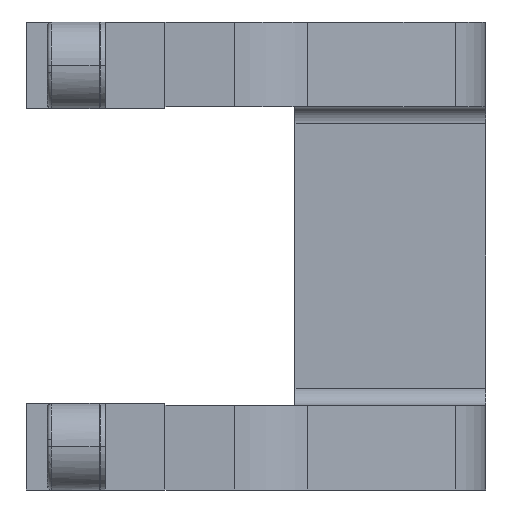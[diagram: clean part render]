
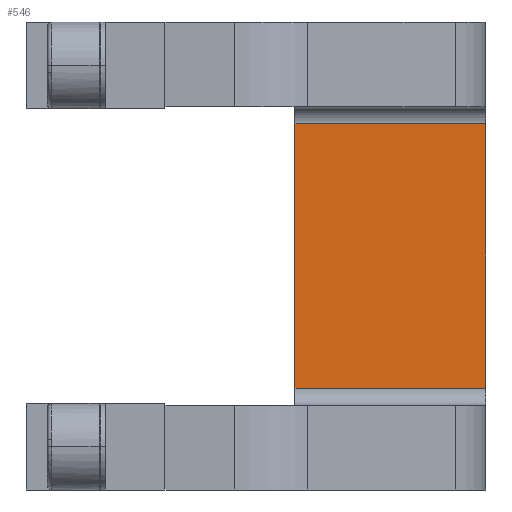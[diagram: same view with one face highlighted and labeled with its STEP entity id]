
A CAD part, front view. The second image highlights one B-rep face of the part: STEP entity #546.
In plain terms, the highlighted planar face has unit normal (0, -1, 0).
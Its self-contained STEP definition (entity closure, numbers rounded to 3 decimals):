
#147=CARTESIAN_POINT('Vertex',(37.,70.,15.25)) ;
#150=CARTESIAN_POINT('Line Origine',(37.,70.,0.)) ;
#154=CARTESIAN_POINT('Vertex',(37.,70.,-15.25)) ;
#508=CARTESIAN_POINT('Vertex',(15.,70.,-15.25)) ;
#511=CARTESIAN_POINT('Line Origine',(18.5,70.,-15.25)) ;
#523=CARTESIAN_POINT('Axis2P3D Location',(0.,70.,15.25)) ;
#528=CARTESIAN_POINT('Line Origine',(26.,70.,15.25)) ;
#532=CARTESIAN_POINT('Vertex',(15.,70.,15.25)) ;
#535=CARTESIAN_POINT('Line Origine',(15.,70.,0.)) ;
#151=DIRECTION('Vector Direction',(0.,0.,-1.)) ;
#512=DIRECTION('Vector Direction',(-1.,0.,0.)) ;
#524=DIRECTION('Axis2P3D Direction',(0.,-1.,0.)) ;
#525=DIRECTION('Axis2P3D XDirection',(0.,-0.,-1.)) ;
#529=DIRECTION('Vector Direction',(1.,0.,0.)) ;
#536=DIRECTION('Vector Direction',(0.,0.,-1.)) ;
#526=AXIS2_PLACEMENT_3D('Plane Axis2P3D',#523,#524,#525) ;
#541=ORIENTED_EDGE('',*,*,#515,.T.) ;
#542=ORIENTED_EDGE('',*,*,#156,.F.) ;
#543=ORIENTED_EDGE('',*,*,#534,.F.) ;
#544=ORIENTED_EDGE('',*,*,#539,.T.) ;
#152=VECTOR('Line Direction',#151,1.) ;
#513=VECTOR('Line Direction',#512,1.) ;
#530=VECTOR('Line Direction',#529,1.) ;
#537=VECTOR('Line Direction',#536,1.) ;
#546=ADVANCED_FACE('Brep With Voids',(#545),#527,.T.) ;
#156=EDGE_CURVE('',#148,#155,#153,.T.) ;
#515=EDGE_CURVE('',#509,#155,#514,.F.) ;
#534=EDGE_CURVE('',#533,#148,#531,.T.) ;
#539=EDGE_CURVE('',#533,#509,#538,.T.) ;
#540=EDGE_LOOP('',(#541,#542,#543,#544)) ;
#545=FACE_OUTER_BOUND('',#540,.T.) ;
#153=LINE('Line',#150,#152) ;
#514=LINE('Line',#511,#513) ;
#531=LINE('Line',#528,#530) ;
#538=LINE('Line',#535,#537) ;
#527=PLANE('Plane',#526) ;
#148=VERTEX_POINT('',#147) ;
#155=VERTEX_POINT('',#154) ;
#509=VERTEX_POINT('',#508) ;
#533=VERTEX_POINT('',#532) ;
